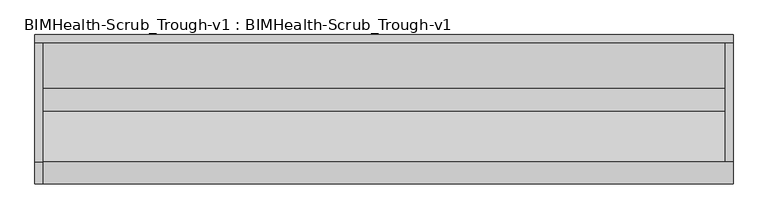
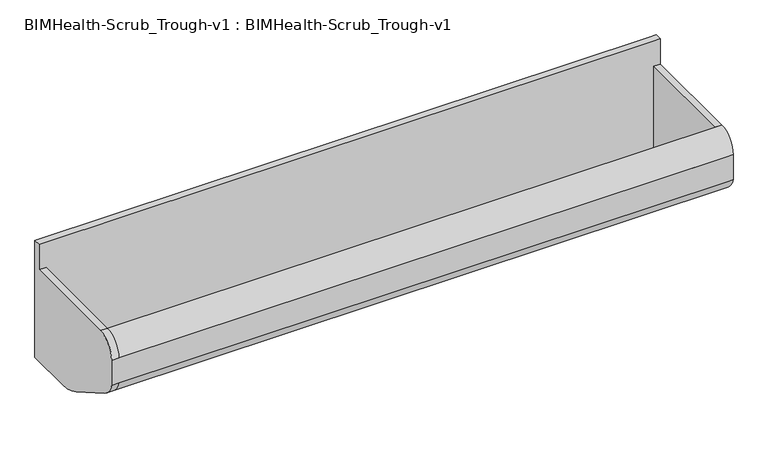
"""IFC4 building model written with IfcOpenShell, lengths in millimetres: furniture geometry, BIMHealth-Scrub_Trough-v1 : BIMHealth-Scrub_Trough-v1."""

from ifc_helpers import new_model, si_unit, frame, origin, place, context, project, spatial, polyline, circle_curve, source, transform, mapped, element, save
from ifc_brep_helpers import plane_surface, cylinder_surface, revolved_surface, advanced_brep


def bimhealth_scrub_trough_v1_bimhealth_scrub_trough_v1_db082bb5(model_context):
    return source(origin(), model_context, "Body", "AdvancedBrep", [
        advanced_brep(
        [(-856.6322871, -20.0, 421.2537169), (-856.6322871, -320.0, 421.2537169), (-856.6322871, -320.0, 401.2537169), (-856.6322871, -355.0919447, 366.1617722), (-856.6322871, -355.0919447, 294.1560226), (-856.6322871, -330.4509285, 263.9806892), (-856.6322871, -191.8868639, 183.9806892), (-856.6322871, -134.4044009, 166.6601811), (-856.6322871, -20.0, 166.6601811), (-876.6322871, -20.0, 496.2537169), (-876.6322871, 0.0, 496.2537169), (-876.6322871, 0.0, 146.6601811), (-876.6322871, -135.0, 146.6601811), (-876.6322871, -201.8868639, 166.6601811), (-876.6322871, -340.4509285, 246.6601811), (-876.6322871, -375.0919447, 291.1617722), (-876.6322871, -375.0919447, 366.1617722), (-876.6322871, -320.0, 421.2537169), (-876.6322871, -20.0, 421.2537169), (856.6322871, -20.0, 166.6601811), (856.6322871, -20.0, 421.2537169), (876.6322871, -20.0, 421.2537169), (876.6322871, -20.0, 496.2537169), (856.6322871, -20.0, 496.2537169), (-856.6322871, -375.0919447, 366.1617722), (-856.6322871, -375.0919447, 291.1617722), (856.6322871, -375.0919447, 291.1617722), (876.6322871, -375.0919447, 291.1617722), (876.6322871, -375.0919447, 366.1617722), (856.6322871, -375.0919447, 366.1617722), (-856.6322871, -340.4509285, 246.6601811), (-856.6322871, -201.8868639, 166.6601811), (856.6322871, -201.8868639, 166.6601811), (876.6322871, -201.8868639, 166.6601811), (876.6322871, -340.4509285, 246.6601811), (856.6322871, -340.4509285, 246.6601811), (-856.6322871, -135.0, 146.6601811), (856.6322871, 0.0, 146.6601811), (876.6322871, 0.0, 146.6601811), (876.6322871, -135.0, 146.6601811), (856.6322871, -135.0, 146.6601811), (856.6322871, 0.0, 496.2537169), (876.6322871, 0.0, 496.2537169), (876.6322871, -320.0, 421.2537169), (856.6322871, -134.4044009, 166.6601811), (856.6322871, -191.8868639, 183.9806892), (856.6322871, -330.4509285, 263.9806892), (856.6322871, -355.0919447, 294.1560226), (856.6322871, -355.0919447, 366.1617722), (856.6322871, -320.0, 401.2537169), (856.6322871, -320.0, 421.2537169)],
        [
            (0, 1),
            (1, 2),
            (2, 3, circle_curve(frame((-856.6322871, -320.0, 366.1617722), z_axis=(1.0, 0.0, 0.0), x_axis=(0.0, 1.0, 0.0)), 35.0919447)),
            (3, 4),
            (4, 5, circle_curve(frame((-856.6322871, -302.9798936, 311.5619174), z_axis=(1.0, 0.0, 0.0), x_axis=(0.0, 1.0, 0.0)), 54.9420699)),
            (5, 6),
            (6, 7, circle_curve(frame((-856.6322871, -126.3135281, 297.5570384), z_axis=(1.0, 0.0, 0.0), x_axis=(0.0, 1.0, 0.0)), 131.1466716)),
            (7, 8),
            (8, 0),
            (9, 10),
            (10, 11),
            (11, 12),
            (12, 13, circle_curve(frame((-876.6322871, -126.3135281, 297.5570384), z_axis=(-1.0, 0.0, 0.0), x_axis=(0.0, 0.0, 1.0)), 151.1466716)),
            (13, 14),
            (14, 15, circle_curve(frame((-876.6322871, -302.9798936, 311.5619174), z_axis=(-1.0, 0.0, 0.0), x_axis=(0.0, 0.0, 1.0)), 74.9420699)),
            (15, 16),
            (16, 17, circle_curve(frame((-876.6322871, -320.0, 366.1617722), z_axis=(-1.0, 0.0, 0.0), x_axis=(0.0, 0.0, 1.0)), 55.0919447)),
            (17, 18),
            (18, 9),
            (18, 0),
            (8, 19),
            (19, 20),
            (20, 21),
            (21, 22),
            (22, 23),
            (23, 9),
            (17, 1),
            (16, 24),
            (24, 1, circle_curve(frame((-856.6322871, -320.0, 366.1617722), z_axis=(-1.0, 0.0, 0.0), x_axis=(0.0, 0.0, 1.0)), 55.0919447)),
            (15, 25),
            (25, 26),
            (26, 27),
            (27, 28),
            (28, 29),
            (29, 24),
            (14, 30),
            (30, 25, circle_curve(frame((-856.6322871, -302.9798936, 311.5619174), z_axis=(-1.0, 0.0, 0.0), x_axis=(0.0, 0.0, 1.0)), 74.9420699)),
            (13, 31),
            (31, 32),
            (32, 33),
            (33, 34),
            (34, 35),
            (35, 30),
            (12, 36),
            (36, 31, circle_curve(frame((-856.6322871, -126.3135281, 297.5570384), z_axis=(-1.0, 0.0, 0.0), x_axis=(0.0, 0.0, 1.0)), 151.1466716)),
            (11, 37),
            (37, 38),
            (38, 39),
            (39, 40),
            (40, 36),
            (10, 41),
            (41, 42),
            (42, 38),
            (22, 42),
            (43, 28, circle_curve(frame((876.6322871, -320.0, 366.1617722), z_axis=(1.0, 0.0, 0.0), x_axis=(0.0, 1.0, 0.0)), 55.0919447)),
            (27, 34, circle_curve(frame((876.6322871, -302.9798936, 311.5619174), z_axis=(1.0, 0.0, 0.0), x_axis=(0.0, 1.0, 0.0)), 74.9420699)),
            (33, 39, circle_curve(frame((876.6322871, -126.3135281, 297.5570384), z_axis=(1.0, 0.0, 0.0), x_axis=(0.0, 1.0, 0.0)), 151.1466716)),
            (21, 43),
            (7, 44),
            (44, 19),
            (6, 45),
            (45, 44, circle_curve(frame((856.6322871, -126.3135281, 297.5570384), z_axis=(1.0, 0.0, 0.0), x_axis=(0.0, 1.0, 0.0)), 131.1466716)),
            (5, 46),
            (46, 45),
            (4, 47),
            (47, 46, circle_curve(frame((856.6322871, -302.9798936, 311.5619174), z_axis=(1.0, 0.0, 0.0), x_axis=(0.0, 1.0, 0.0)), 54.9420699)),
            (3, 48),
            (48, 47),
            (2, 49),
            (49, 48, circle_curve(frame((856.6322871, -320.0, 366.1617722), z_axis=(1.0, 0.0, 0.0), x_axis=(0.0, 1.0, 0.0)), 35.0919447)),
            (1, 50),
            (50, 49),
            (43, 50),
            (50, 20),
        ],
        [
            plane_surface(frame((-856.6322871, -20.0, 496.2537169), z_axis=(1.0, 0.0, 0.0), x_axis=(0.0, 0.0, -1.0))),
            plane_surface(frame((-876.6322871, -20.0, 496.2537169), z_axis=(-1.0, 0.0, 0.0), x_axis=(0.0, 0.0, 1.0))),
            plane_surface(frame((-856.6322871, -20.0, 496.2537169), z_axis=(0.0, -1.0, 0.0), x_axis=(-1.0, 0.0, 0.0))),
            plane_surface(frame((-856.6322871, -20.0, 421.2537169), z_axis=(0.0, 0.0, 1.0), x_axis=(-1.0, 0.0, 0.0))),
            cylinder_surface(frame((-876.6322871, -320.0, 366.1617722), z_axis=(1.0, 0.0, 0.0), x_axis=(0.0, 0.0, 1.0)), 55.0919447),
            plane_surface(frame((-856.6322871, -375.0919447, 366.1617722), z_axis=(0.0, -1.0, 0.0), x_axis=(-1.0, 0.0, 0.0))),
            cylinder_surface(frame((-876.6322871, -302.9798936, 311.5619174), z_axis=(1.0, 0.0, 0.0), x_axis=(0.0, 0.0, 1.0)), 74.9420699),
            plane_surface(frame((-856.6322871, -340.4509285, 246.6601811), z_axis=(0.0, -0.500000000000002, -0.8660254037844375), x_axis=(-1.0, 0.0, 0.0))),
            cylinder_surface(frame((-876.6322871, -126.3135281, 297.5570384), z_axis=(1.0, 0.0, 0.0), x_axis=(0.0, 0.0, 1.0)), 151.1466716),
            plane_surface(frame((-856.6322871, -135.0, 146.6601811), z_axis=(0.0, 0.0, -1.0), x_axis=(-1.0, 0.0, 0.0))),
            plane_surface(frame((-856.6322871, 0.0, 146.6601811), z_axis=(0.0, 1.0, 0.0), x_axis=(-1.0, 0.0, 0.0))),
            plane_surface(frame((-856.6322871, 0.0, 496.2537169), z_axis=(0.0, 0.0, 1.0), x_axis=(-1.0, 0.0, 0.0))),
            plane_surface(frame((876.6322871, -20.0, 146.6601811), z_axis=(1.0, 0.0, 0.0), x_axis=(0.0, 0.0, -1.0))),
            plane_surface(frame((876.6322871, -20.0, 166.6601811), z_axis=(0.0, 0.0, 1.0), x_axis=(-1.0, 0.0, 0.0))),
            revolved_surface(polyline([(-856.6322871, 4.833143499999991, 297.5570384), (856.6322871, 4.833143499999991, 297.5570384)]), (-876.6322871, -126.3135281, 297.5570384), (-1.0, 0.0, 0.0)),
            plane_surface(frame((876.6322871, -191.8868639, 183.9806892), z_axis=(0.0, 0.4999999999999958, 0.8660254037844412), x_axis=(-1.0, 0.0, 0.0))),
            revolved_surface(polyline([(-856.6322871, -248.03782370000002, 311.5619174), (856.6322871, -248.03782370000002, 311.5619174)]), (-876.6322871, -302.9798936, 311.5619174), (-1.0, 0.0, 0.0)),
            plane_surface(frame((876.6322871, -355.0919447, 294.1560226), z_axis=(0.0, 1.0, 0.0), x_axis=(-1.0, 0.0, 0.0))),
            revolved_surface(polyline([(-856.6322871, -284.9080553, 366.1617722), (856.6322871, -284.9080553, 366.1617722)]), (-876.6322871, -320.0, 366.1617722), (-1.0, 0.0, 0.0)),
            plane_surface(frame((876.6322871, -320.0, 401.2537169), z_axis=(0.0, 1.0, 0.0), x_axis=(-1.0, 0.0, 0.0))),
            cylinder_surface(frame((-876.6322871, -320.0, 366.1617722), z_axis=(1.0, 0.0, 0.0), x_axis=(0.0, 1.0, 0.0)), 55.0919447),
            cylinder_surface(frame((-876.6322871, -302.9798936, 311.5619174), z_axis=(1.0, 0.0, 0.0), x_axis=(0.0, 1.0, 0.0)), 74.9420699),
            cylinder_surface(frame((-876.6322871, -126.3135281, 297.5570384), z_axis=(1.0, 0.0, 0.0), x_axis=(0.0, 1.0, 0.0)), 151.1466716),
            plane_surface(frame((856.6322871, -20.0, 496.2537169), z_axis=(-1.0, 0.0, 0.0), x_axis=(0.0, 0.0, 1.0))),
            plane_surface(frame((876.6322871, -20.0, 421.2537169), z_axis=(0.0, 0.0, 1.0), x_axis=(-1.0, 0.0, 0.0))),
        ],
        [
            (0, [[1, 2, 3, 4, 5, 6, 7, 8, 9]]),
            (1, [[10, 11, 12, 13, 14, 15, 16, 17, 18, 19]]),
            (2, [[-19, 20, -9, 21, 22, 23, 24, 25, 26]]),
            (3, [[-1, -20, -18, 27]]),
            (4, [[-17, 28, 29, -27]]),
            (5, [[-16, 30, 31, 32, 33, 34, 35, -28]]),
            (6, [[-15, 36, 37, -30]]),
            (7, [[-14, 38, 39, 40, 41, 42, 43, -36]]),
            (8, [[-13, 44, 45, -38]]),
            (9, [[-12, 46, 47, 48, 49, 50, -44]]),
            (10, [[-11, 51, 52, 53, -47, -46]]),
            (11, [[-10, -26, -25, 54, -52, -51]]),
            (12, [[55, -33, 56, -41, 57, -48, -53, -54, -24, 58]]),
            (13, [[-8, 59, 60, -21]]),
            (14, [[-7, 61, 62, -59]]),
            (15, [[-6, 63, 64, -61]]),
            (16, [[-5, 65, 66, -63]]),
            (17, [[-4, 67, 68, -65]]),
            (18, [[-3, 69, 70, -67]]),
            (19, [[-2, 71, 72, -69]]),
            (20, [[-55, 73, -71, -29, -35, -34]]),
            (21, [[-56, -32, -31, -37, -43, -42]]),
            (22, [[-57, -40, -39, -45, -50, -49]]),
            (23, [[74, -22, -60, -62, -64, -66, -68, -70, -72]]),
            (24, [[-74, -73, -58, -23]]),
        ],
    ),
    ])


if __name__ == "__main__":
    model = new_model("IFC4")
    model_context = context("Model", 3, world=origin())
    ifc_project = project(units=[si_unit("LENGTHUNIT", "METRE", prefix="MILLI")], contexts=[model_context])
    site = spatial("IfcSite", under=ifc_project)
    building = spatial("IfcBuilding", under=site)
    placement = place(None, origin())
    bimhealth_scrub_trough_v1_bimhealth_scrub_trough_v1_shape = bimhealth_scrub_trough_v1_bimhealth_scrub_trough_v1_db082bb5(model_context)
    element("IfcFurniture", 1, ObjectType="BIMHealth-Scrub_Trough-v1 : BIMHealth-Scrub_Trough-v1", at=placement, inside=building, context=model_context, shape_type="MappedRepresentation", body=[
        mapped(bimhealth_scrub_trough_v1_bimhealth_scrub_trough_v1_shape, transform((0.0, 0.0, 0.0), x_axis=(1.0, 0.0, 0.0), y_axis=(0.0, 1.0, 0.0), z_axis=(0.0, 0.0, 1.0))),
    ])
    save(model, "model.ifc")
